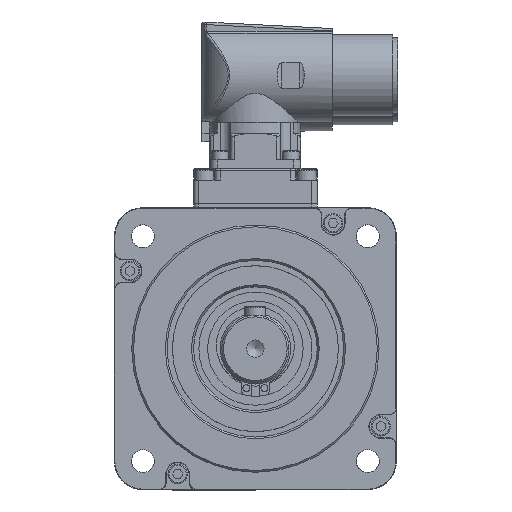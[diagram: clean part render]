
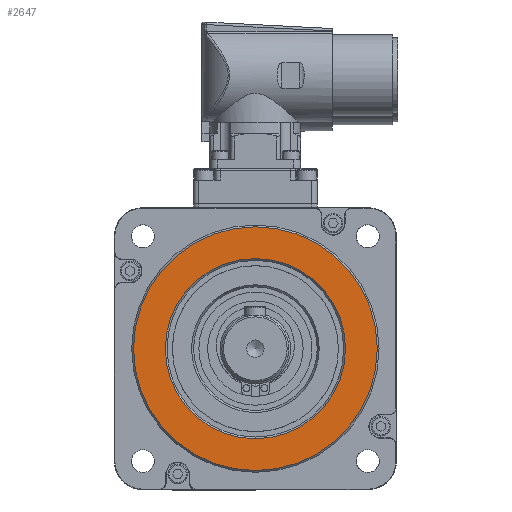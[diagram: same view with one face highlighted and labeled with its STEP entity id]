
A CAD part, front view. The second image highlights one B-rep face of the part: STEP entity #2647.
In plain terms, the highlighted planar face has unit normal (0, -1, 0).
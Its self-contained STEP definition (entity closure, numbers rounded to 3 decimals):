
#2647 = ADVANCED_FACE( '', ( #5968, #5969 ), #5970, .T. );
#5968 = FACE_BOUND( '', #11524, .T. );
#5969 = FACE_OUTER_BOUND( '', #11525, .T. );
#5970 = PLANE( '', #11526 );
#11524 = EDGE_LOOP( '', ( #23170 ) );
#11525 = EDGE_LOOP( '', ( #23171 ) );
#11526 = AXIS2_PLACEMENT_3D( '', #23172, #23173, #23174 );
#23170 = ORIENTED_EDGE( '', *, *, #37621, .T. );
#23171 = ORIENTED_EDGE( '', *, *, #37622, .T. );
#23172 = CARTESIAN_POINT( '', ( 0., -1.36, 25. ) );
#23173 = DIRECTION( '', ( 0., -1., 0. ) );
#23174 = DIRECTION( '', ( 0., 0., -1. ) );
#37621 = EDGE_CURVE( '', #44995, #44995, #44996, .F. );
#37622 = EDGE_CURVE( '', #44997, #44997, #44998, .T. );
#44995 = VERTEX_POINT( '', #53359 );
#44996 = CIRCLE( '', #53360, 25.5 );
#44997 = VERTEX_POINT( '', #53361 );
#44998 = CIRCLE( '', #53362, 34.5 );
#53359 = CARTESIAN_POINT( '', ( 0., -1.36, -25.5 ) );
#53360 = AXIS2_PLACEMENT_3D( '', #64967, #64968, #64969 );
#53361 = CARTESIAN_POINT( '', ( 0., -1.36, -34.5 ) );
#53362 = AXIS2_PLACEMENT_3D( '', #64970, #64971, #64972 );
#64967 = CARTESIAN_POINT( '', ( 0., -1.36, 0. ) );
#64968 = DIRECTION( '', ( 0., -1., 0. ) );
#64969 = DIRECTION( '', ( 0., 0., -1. ) );
#64970 = CARTESIAN_POINT( '', ( 0., -1.36, 0. ) );
#64971 = DIRECTION( '', ( 0., -1., 0. ) );
#64972 = DIRECTION( '', ( 0., 0., -1. ) );
